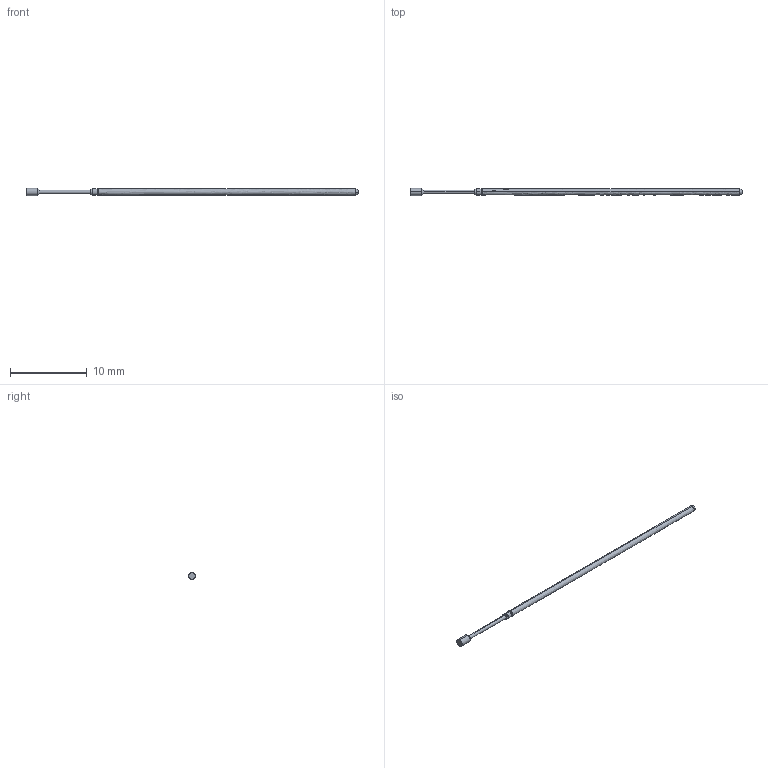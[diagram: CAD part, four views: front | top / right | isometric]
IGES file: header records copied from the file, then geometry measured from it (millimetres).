
Start section: SolidWorks IGES file using analytic representation for surfaces
Global section: file name: L:\probe solid model mockups\Solidworks models\POGO-72F.IGS; native system: SolidWorks 2006 by SolidWorks Corporation; preprocessor: SolidWorks 2006 by SolidWorks Corporation; author: Ksnyder; date: 071211.135515; units: inch
Bounding box: 43.18 x 0.97 x 0.97 mm (x, y, z)
Volume: 30.2 mm3; surface area: 185.5 mm2
Topology: 1 solids, 1 shells, 25 faces, 52 edges, 28 vertices
Faces by surface type: revolution 22, plane 3
